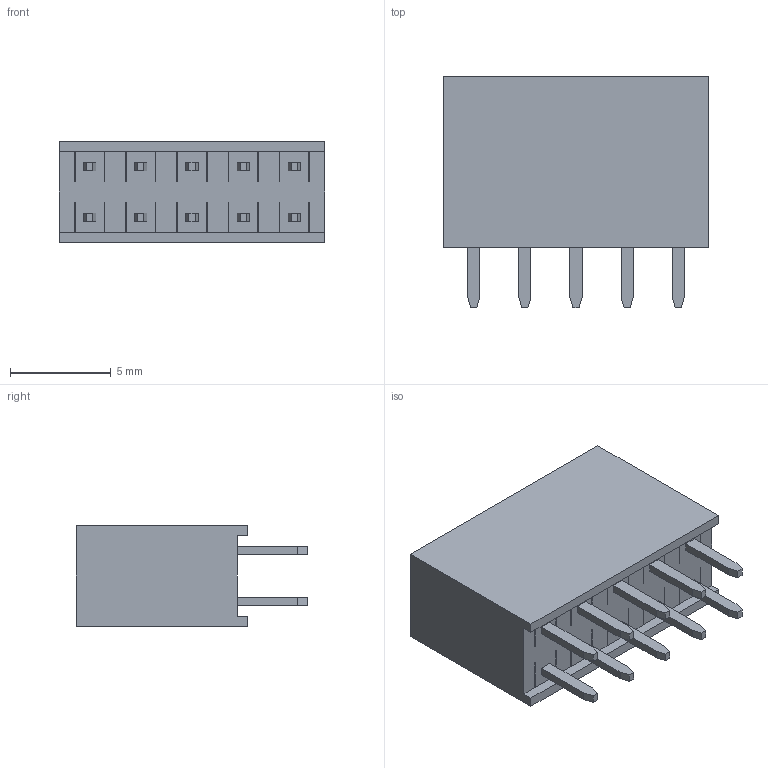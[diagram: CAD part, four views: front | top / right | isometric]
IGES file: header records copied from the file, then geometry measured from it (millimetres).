
Start section:  PTC IGES file: zl262-10d_p2-54_l13-2_w5_h8-5.igs
Global section: file name: zl262-10d_p2-54_l13-2_w5_h8-5.igs; native system: Pro/ENGINEER by Parametric Technology Corporation; preprocessor: 2004440; author: Dragos; organization: Unknown; date: 190116.172014; units: millimetre
Bounding box: 13.2 x 11.5 x 5 mm (x, y, z)
Volume: 492.9 mm3; surface area: 1164.3 mm2
Topology: 1 solids, 1 shells, 300 faces, 764 edges, 496 vertices
Faces by surface type: bspline 300
